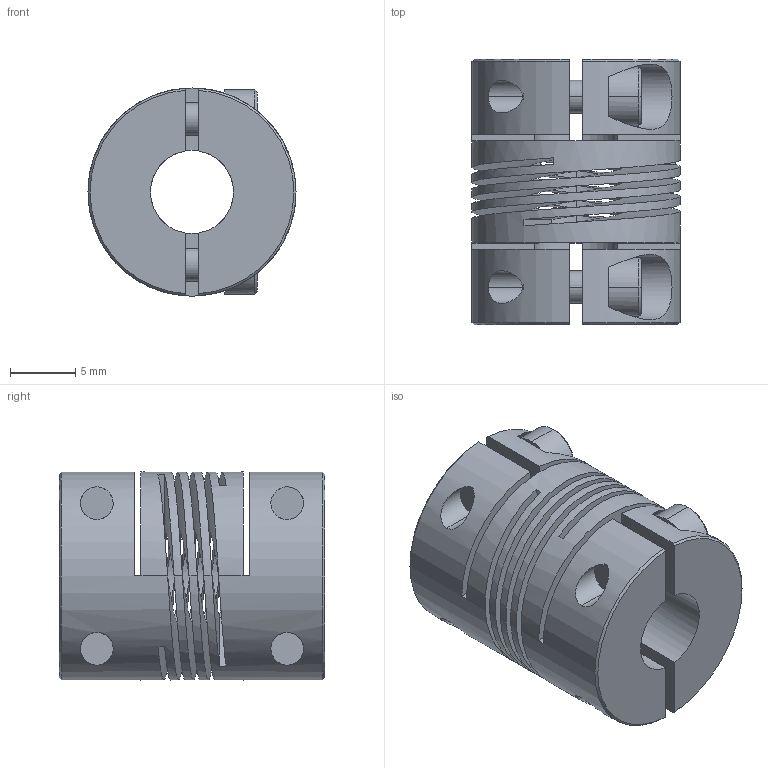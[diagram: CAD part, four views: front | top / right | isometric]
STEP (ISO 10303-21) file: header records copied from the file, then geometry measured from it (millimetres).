
FILE_DESCRIPTION((''),'2;1');
FILE_NAME('721_16','2006-12-05T',('Gary Melling'),(''),'PRO/ENGINEER BY PARAMETRIC TECHNOLOGY CORPORATION, 2006240','PRO/ENGINEER BY PARAMETRIC TECHNOLOGY CORPORATION, 2006240','');
FILE_SCHEMA(('CONFIG_CONTROL_DESIGN'));
Length unit declared in the file: millimetre
Products named in the file (1): 721_16
Bounding box: 15.9 x 20.3 x 15.9 mm (x, y, z)
Volume: 2690.2 mm3; surface area: 3750.9 mm2
Topology: 1 solids, 1 shells, 141 faces, 373 edges, 240 vertices
Faces by surface type: plane 76, cylinder 47, cone 12, bspline 6
Entity records: 5606 total; most frequent: CARTESIAN_POINT 2101, ORIENTED_EDGE 746, DIRECTION 675, EDGE_CURVE 373, VERTEX_POINT 240, AXIS2_PLACEMENT_3D 231, VECTOR 213, LINE 213
